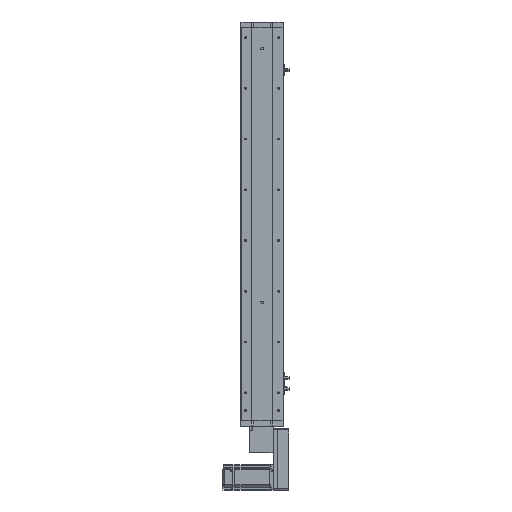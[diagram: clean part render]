
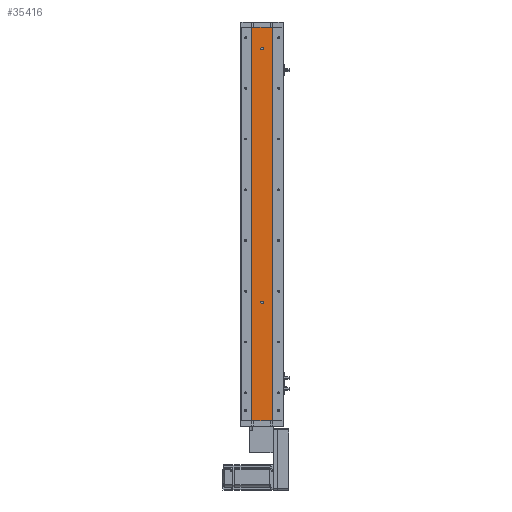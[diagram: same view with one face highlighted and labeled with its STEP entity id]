
A CAD part, left-side view. The second image highlights one B-rep face of the part: STEP entity #35416.
In plain terms, the highlighted planar face has unit normal (-1, 0, 0).
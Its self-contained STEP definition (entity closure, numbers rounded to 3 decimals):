
#553 = FACE_BOUND ( 'NONE', #6294, .T. ) ;
#1383 = DIRECTION ( 'NONE',  ( 0., 0., 1. ) ) ;
#1577 = DIRECTION ( 'NONE',  ( 0., 0., 1. ) ) ;
#4236 = DIRECTION ( 'NONE',  ( 0., 0., 1. ) ) ;
#4379 = EDGE_CURVE ( 'NONE', #48779, #65734, #55375, .T. ) ;
#6017 = CARTESIAN_POINT ( 'NONE',  ( -18.926, -24.785, 930. ) ) ;
#6294 = EDGE_LOOP ( 'NONE', ( #36073, #12860 ) ) ;
#11528 = VERTEX_POINT ( 'NONE', #13187 ) ;
#12607 = VERTEX_POINT ( 'NONE', #59991 ) ;
#12860 = ORIENTED_EDGE ( 'NONE', *, *, #55483, .F. ) ;
#13187 = CARTESIAN_POINT ( 'NONE',  ( -18.926, 0., 877. ) ) ;
#13489 = CIRCLE ( 'NONE', #21163, 3. ) ;
#15679 = VECTOR ( 'NONE', #28995, 1000. ) ;
#16257 = CARTESIAN_POINT ( 'NONE',  ( -18.926, 24.785, 930. ) ) ;
#16798 = LINE ( 'NONE', #6017, #30540 ) ;
#17073 = CARTESIAN_POINT ( 'NONE',  ( -18.926, 24.785, 930. ) ) ;
#18411 = CIRCLE ( 'NONE', #18508, 3. ) ;
#18508 = AXIS2_PLACEMENT_3D ( 'NONE', #63548, #32528, #1577 ) ;
#19401 = AXIS2_PLACEMENT_3D ( 'NONE', #63348, #32323, #1383 ) ;
#20841 = CARTESIAN_POINT ( 'NONE',  ( -18.926, 0., 880. ) ) ;
#21163 = AXIS2_PLACEMENT_3D ( 'NONE', #66203, #35230, #4236 ) ;
#21224 = PLANE ( 'NONE',  #36137 ) ;
#21453 = DIRECTION ( 'NONE',  ( 0., 0., -1. ) ) ;
#23678 = EDGE_LOOP ( 'NONE', ( #31132, #50689 ) ) ;
#24035 = LINE ( 'NONE', #17073, #49981 ) ;
#26079 = DIRECTION ( 'NONE',  ( 0., 0., 1. ) ) ;
#26492 = FACE_OUTER_BOUND ( 'NONE', #40656, .T. ) ;
#26725 = CARTESIAN_POINT ( 'NONE',  ( -18.926, -24.785, 0. ) ) ;
#26730 = EDGE_CURVE ( 'NONE', #65734, #29249, #16798, .T. ) ;
#28258 = EDGE_CURVE ( 'NONE', #48779, #40847, #24035, .T. ) ;
#28995 = DIRECTION ( 'NONE',  ( 0., -1., 0. ) ) ;
#29249 = VERTEX_POINT ( 'NONE', #26725 ) ;
#29625 = CARTESIAN_POINT ( 'NONE',  ( -18.926, 0., 283. ) ) ;
#30540 = VECTOR ( 'NONE', #42007, 1000. ) ;
#31132 = ORIENTED_EDGE ( 'NONE', *, *, #37384, .F. ) ;
#32323 = DIRECTION ( 'NONE',  ( -1., 0., 0. ) ) ;
#32528 = DIRECTION ( 'NONE',  ( -1., 0., 0. ) ) ;
#35230 = DIRECTION ( 'NONE',  ( -1., 0., 0. ) ) ;
#35316 = VECTOR ( 'NONE', #41314, 1000. ) ;
#35416 = ADVANCED_FACE ( 'NONE', ( #553, #38556, #26492 ), #21224, .F. ) ;
#36073 = ORIENTED_EDGE ( 'NONE', *, *, #50675, .F. ) ;
#36137 = AXIS2_PLACEMENT_3D ( 'NONE', #16257, #52437, #21453 ) ;
#36362 = CIRCLE ( 'NONE', #19401, 3. ) ;
#36656 = VERTEX_POINT ( 'NONE', #29625 ) ;
#36923 = LINE ( 'NONE', #61927, #35316 ) ;
#37384 = EDGE_CURVE ( 'NONE', #51972, #11528, #44818, .T. ) ;
#38556 = FACE_BOUND ( 'NONE', #23678, .T. ) ;
#40522 = CARTESIAN_POINT ( 'NONE',  ( -18.926, 0., 883. ) ) ;
#40656 = EDGE_LOOP ( 'NONE', ( #56126, #62853, #49182, #52368 ) ) ;
#40711 = CARTESIAN_POINT ( 'NONE',  ( -18.926, 24.785, 0. ) ) ;
#40847 = VERTEX_POINT ( 'NONE', #40711 ) ;
#41314 = DIRECTION ( 'NONE',  ( 0., -1., 0. ) ) ;
#42007 = DIRECTION ( 'NONE',  ( 0., 0., -1. ) ) ;
#44369 = CARTESIAN_POINT ( 'NONE',  ( -18.926, 24.785, 930. ) ) ;
#44818 = CIRCLE ( 'NONE', #56295, 3. ) ;
#48779 = VERTEX_POINT ( 'NONE', #48875 ) ;
#48875 = CARTESIAN_POINT ( 'NONE',  ( -18.926, 24.785, 930. ) ) ;
#49182 = ORIENTED_EDGE ( 'NONE', *, *, #4379, .F. ) ;
#49981 = VECTOR ( 'NONE', #53304, 1000. ) ;
#50675 = EDGE_CURVE ( 'NONE', #36656, #12607, #36362, .T. ) ;
#50689 = ORIENTED_EDGE ( 'NONE', *, *, #64372, .F. ) ;
#51972 = VERTEX_POINT ( 'NONE', #40522 ) ;
#52368 = ORIENTED_EDGE ( 'NONE', *, *, #28258, .T. ) ;
#52437 = DIRECTION ( 'NONE',  ( 1., 0., 0. ) ) ;
#53304 = DIRECTION ( 'NONE',  ( 0., 0., -1. ) ) ;
#55375 = LINE ( 'NONE', #44369, #15679 ) ;
#55483 = EDGE_CURVE ( 'NONE', #12607, #36656, #18411, .T. ) ;
#55867 = EDGE_CURVE ( 'NONE', #40847, #29249, #36923, .T. ) ;
#56126 = ORIENTED_EDGE ( 'NONE', *, *, #55867, .T. ) ;
#56295 = AXIS2_PLACEMENT_3D ( 'NONE', #20841, #57074, #26079 ) ;
#57074 = DIRECTION ( 'NONE',  ( -1., 0., 0. ) ) ;
#59991 = CARTESIAN_POINT ( 'NONE',  ( -18.926, 0., 277. ) ) ;
#60533 = CARTESIAN_POINT ( 'NONE',  ( -18.926, -24.785, 930. ) ) ;
#61927 = CARTESIAN_POINT ( 'NONE',  ( -18.926, 24.785, 0. ) ) ;
#62853 = ORIENTED_EDGE ( 'NONE', *, *, #26730, .F. ) ;
#63348 = CARTESIAN_POINT ( 'NONE',  ( -18.926, 0., 280. ) ) ;
#63548 = CARTESIAN_POINT ( 'NONE',  ( -18.926, 0., 280. ) ) ;
#64372 = EDGE_CURVE ( 'NONE', #11528, #51972, #13489, .T. ) ;
#65734 = VERTEX_POINT ( 'NONE', #60533 ) ;
#66203 = CARTESIAN_POINT ( 'NONE',  ( -18.926, 0., 880. ) ) ;
